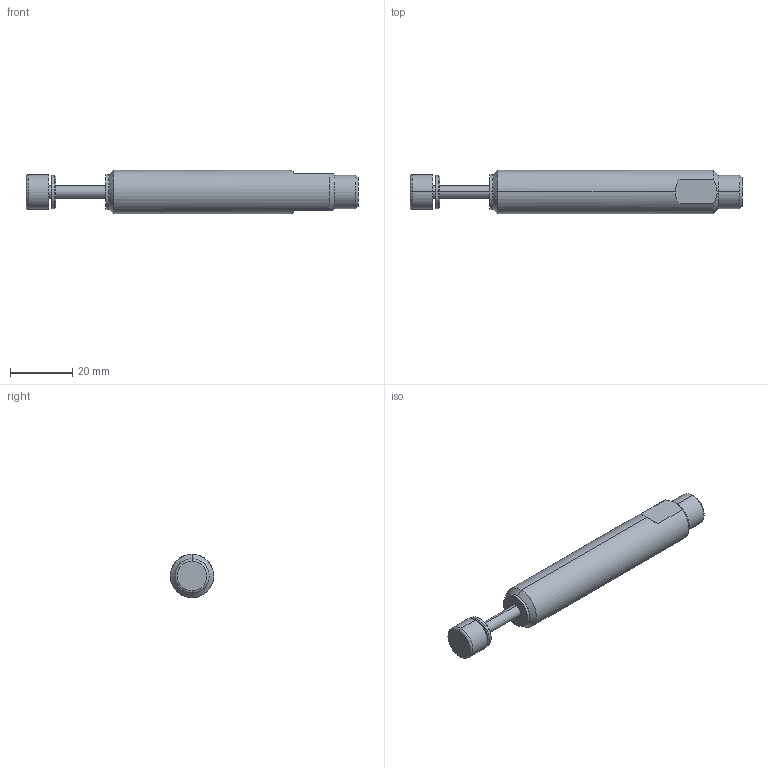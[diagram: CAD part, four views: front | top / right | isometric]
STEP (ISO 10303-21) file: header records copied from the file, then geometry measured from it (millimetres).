
FILE_DESCRIPTION (( 'STEP AP203' ), '1' );
FILE_NAME ('PRO-PM 25MFB.STEP', '2009-04-27T14:34:11', ( ' ' ), ( '' ), 'SwSTEP 2.0', 'SolidWorks 2006233', '' );
FILE_SCHEMA (( 'CONFIG_CONTROL_DESIGN' ));
Length unit declared in the file: inch
Products named in the file (1): PRO-PM 25MFB
Bounding box: 107.06 x 13.97 x 13.97 mm (x, y, z)
Surface area: 4934.8 mm2 (no closed solid volume)
Topology: 0 solids, 6 shells, 52 faces, 126 edges, 82 vertices
Faces by surface type: plane 18, cylinder 16, cone 14, torus 4
Entity records: 1652 total; most frequent: CARTESIAN_POINT 345, DIRECTION 278, ORIENTED_EDGE 226, EDGE_CURVE 126, AXIS2_PLACEMENT_3D 115, VERTEX_POINT 82, CIRCLE 62, EDGE_LOOP 59
